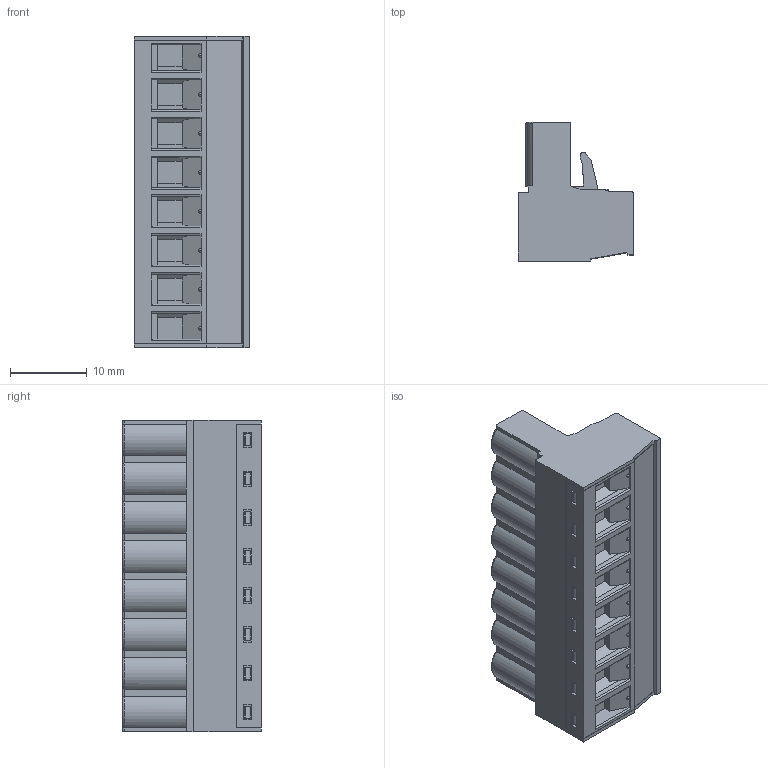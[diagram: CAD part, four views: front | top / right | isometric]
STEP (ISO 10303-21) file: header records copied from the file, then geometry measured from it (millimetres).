
FILE_DESCRIPTION (( 'STEP AP203' ), '1' );
FILE_NAME ('BR8F1-08.STEP', '2020-03-04T01:17:53', ( '' ), ( '' ), 'SwSTEP 2.0', 'SolidWorks 2019', '' );
FILE_SCHEMA (( 'CONFIG_CONTROL_DESIGN' ));
Length unit declared in the file: millimetre
Products named in the file (1): BR8F1-08
Bounding box: 15.05 x 18.1 x 40.64 mm (x, y, z)
Volume: 6474 mm3; surface area: 5522.9 mm2
Topology: 1 solids, 1 shells, 1063 faces, 2833 edges, 1820 vertices
Faces by surface type: plane 661, cylinder 258, cone 64, torus 48, sphere 32
Entity records: 33591 total; most frequent: CARTESIAN_POINT 6760, ORIENTED_EDGE 5666, DIRECTION 5435, EDGE_CURVE 2833, LINE 2067, VECTOR 2067, VERTEX_POINT 1820, AXIS2_PLACEMENT_3D 1684
